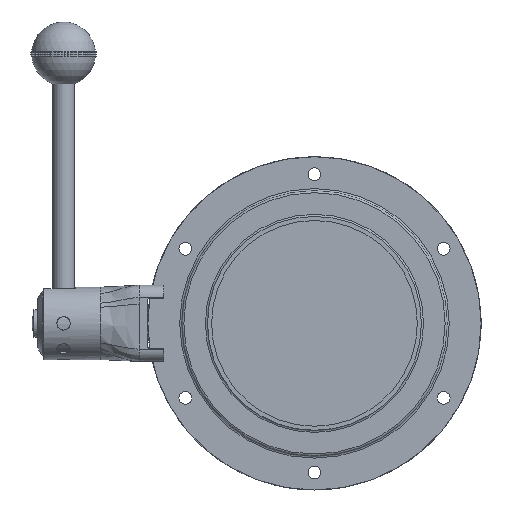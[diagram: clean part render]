
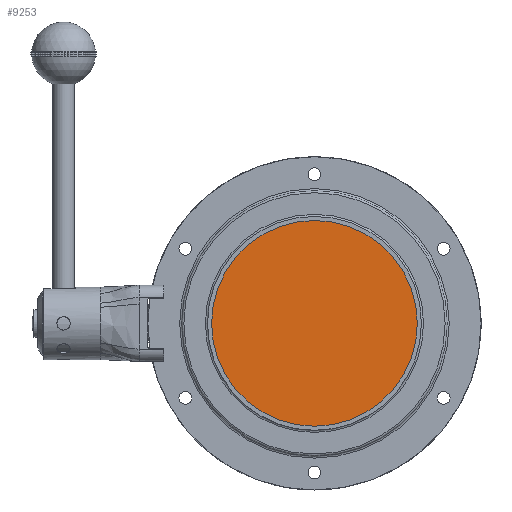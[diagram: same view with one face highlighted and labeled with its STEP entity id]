
A CAD part, left-side view. The second image highlights one B-rep face of the part: STEP entity #9253.
In plain terms, the highlighted planar face has unit normal (-1, 0, 0) as drawn and (1, 0, 0) by its records, which use the part's own axes.
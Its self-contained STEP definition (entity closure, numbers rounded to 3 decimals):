
#1038=PLANE('',#10369);
#1574=CIRCLE('',#10370,50.3);
#2121=FACE_OUTER_BOUND('',#2745,.T.);
#2745=EDGE_LOOP('',(#8597));
#4798=VERTEX_POINT('',#22205);
#6070=EDGE_CURVE('',#4798,#4798,#1574,.T.);
#8597=ORIENTED_EDGE('',*,*,#6070,.T.);
#9253=ADVANCED_FACE('',(#2121),#1038,.T.);
#10369=AXIS2_PLACEMENT_3D('',#22204,#12917,#12918);
#10370=AXIS2_PLACEMENT_3D('',#22206,#12919,#12920);
#12917=DIRECTION('center_axis',(1.,0.,0.));
#12918=DIRECTION('ref_axis',(0.,0.,-1.));
#12919=DIRECTION('center_axis',(1.,0.,0.));
#12920=DIRECTION('ref_axis',(0.,0.,-1.));
#22204=CARTESIAN_POINT('Origin',(11.,0.,0.));
#22205=CARTESIAN_POINT('',(11.,-50.3,0.));
#22206=CARTESIAN_POINT('Origin',(11.,0.,0.));
